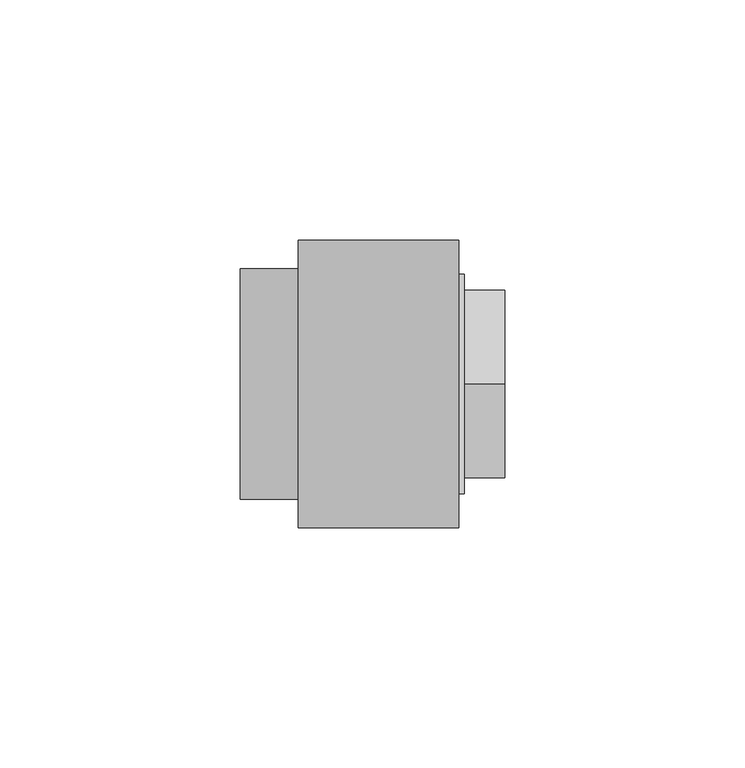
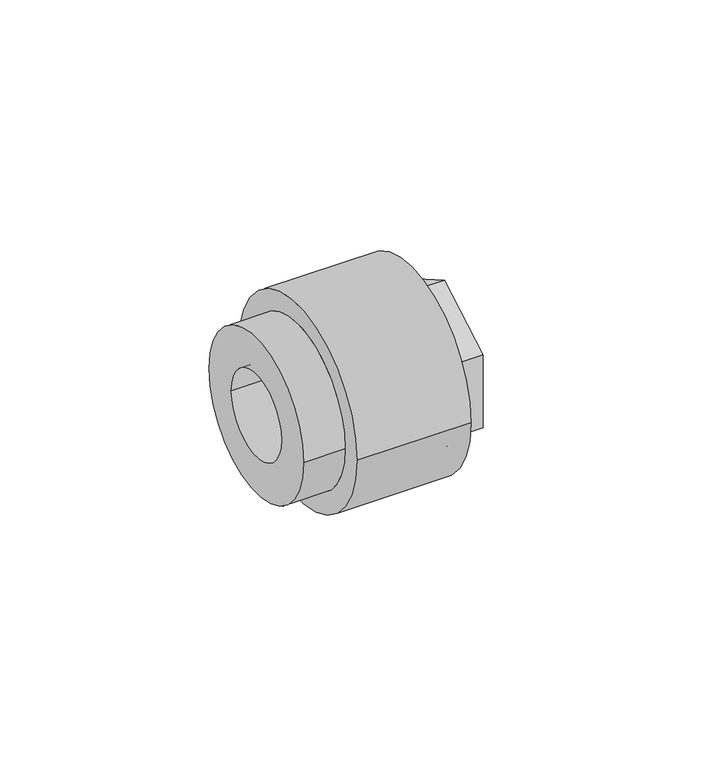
"""IFC4 building model written with IfcOpenShell, lengths in millimetres: pipe fitting geometry, Aquatherm - Fusion Outlet Transition Female : POTABLE BRASS - HEX."""

from ifc_helpers import new_model, si_unit, frame, origin, place, context, project, spatial, polyline, circle_curve, source, transform, mapped, element, save
from ifc_brep_helpers import plane_surface, cylinder_surface, revolved_surface, advanced_brep


def pipe_fitting_4cd8d17a(model_context):
    return source(origin(), model_context, "Body", "AdvancedBrep", [
        advanced_brep(
        [(25.4635, 15.875, 0.0), (25.4635, -15.875, 0.0), (40.3463125, -15.875, 0.0), (40.3463125, 15.875, 0.0), (25.4635, 16.66875, 0.0), (25.4635, -16.66875, 0.0), (22.2885, 16.66875, 0.0), (22.2885, -16.66875, 0.0), (22.2885, 12.7, 0.0), (22.2885, -12.7, 0.0), (19.1135, 12.7, 0.0), (19.1135, -12.7, 0.0), (19.1135, 24.003, 0.0), (19.1135, -24.003, 0.0), (33.401, 24.003, 0.0), (33.401, -24.003, 0.0), (42.926, 16.66875, 0.0), (42.926, -16.66875, 0.0), (42.926, -19.558, 0.0), (42.926, -19.558, -11.2918166), (42.926, 0.0, -22.5836331), (42.926, 19.558, -11.2918166), (42.926, 19.558, 0.0), (42.926, 19.558, 11.2918166), (42.926, 0.0, 22.5836331), (42.926, -19.558, 11.2918166), (33.401, 22.86, 0.0), (33.401, -22.86, 0.0), (34.591625, 22.86, 0.0), (34.591625, -22.86, 0.0), (34.591625, 0.0, -22.5836331), (34.591625, -19.558, -11.2918166), (34.591625, -19.558, 11.2918166), (34.591625, 0.0, 22.5836331), (34.591625, 19.558, 11.2918166), (34.591625, 19.558, -11.2918166)],
        [
            (0, 1, circle_curve(frame((25.4635, 0.0, 0.0), z_axis=(-1.0, 0.0, 0.0), x_axis=(0.0, -1.0, 0.0)), 15.875)),
            (1, 2),
            (2, 3, circle_curve(frame((40.3463125, 0.0, 0.0), z_axis=(1.0, 0.0, 0.0), x_axis=(0.0, -1.0, 0.0)), 15.875)),
            (3, 0),
            (1, 0, circle_curve(frame((25.4635, 0.0, 0.0), z_axis=(-1.0, 0.0, 0.0), x_axis=(0.0, -1.0, 0.0)), 15.875)),
            (3, 2, circle_curve(frame((40.3463125, 0.0, 0.0), z_axis=(1.0, 0.0, 0.0), x_axis=(0.0, -1.0, 0.0)), 15.875)),
            (0, 4),
            (4, 5, circle_curve(frame((25.4635, 0.0, 0.0), z_axis=(-1.0, 0.0, 0.0), x_axis=(0.0, -1.0, 0.0)), 16.66875)),
            (5, 1),
            (5, 4, circle_curve(frame((25.4635, 0.0, 0.0), z_axis=(-1.0, 0.0, 0.0), x_axis=(0.0, -1.0, 0.0)), 16.66875)),
            (4, 6),
            (6, 7, circle_curve(frame((22.2885, 0.0, 0.0), z_axis=(-1.0, 0.0, 0.0), x_axis=(0.0, -1.0, 0.0)), 16.66875)),
            (7, 5),
            (7, 6, circle_curve(frame((22.2885, 0.0, 0.0), z_axis=(-1.0, 0.0, 0.0), x_axis=(0.0, -1.0, 0.0)), 16.66875)),
            (6, 8),
            (8, 9, circle_curve(frame((22.2885, 0.0, 0.0), z_axis=(-1.0, 0.0, 0.0), x_axis=(0.0, -1.0, 0.0)), 12.7)),
            (9, 7),
            (9, 8, circle_curve(frame((22.2885, 0.0, 0.0), z_axis=(-1.0, 0.0, 0.0), x_axis=(0.0, -1.0, 0.0)), 12.7)),
            (8, 10),
            (10, 11, circle_curve(frame((19.1135, 0.0, 0.0), z_axis=(-1.0, 0.0, 0.0), x_axis=(0.0, -1.0, 0.0)), 12.7)),
            (11, 9),
            (11, 10, circle_curve(frame((19.1135, 0.0, 0.0), z_axis=(-1.0, 0.0, 0.0), x_axis=(0.0, -1.0, 0.0)), 12.7)),
            (10, 12),
            (12, 13, circle_curve(frame((19.1135, 0.0, 0.0), z_axis=(-1.0, 0.0, 0.0), x_axis=(0.0, -1.0, 0.0)), 24.003)),
            (13, 11),
            (13, 12, circle_curve(frame((19.1135, 0.0, 0.0), z_axis=(-1.0, 0.0, 0.0), x_axis=(0.0, -1.0, 0.0)), 24.003)),
            (12, 14),
            (14, 15, circle_curve(frame((33.401, 0.0, 0.0), z_axis=(-1.0, 0.0, 0.0), x_axis=(0.0, -1.0, 0.0)), 24.003)),
            (15, 13),
            (15, 14, circle_curve(frame((33.401, 0.0, 0.0), z_axis=(-1.0, 0.0, 0.0), x_axis=(0.0, -1.0, 0.0)), 24.003)),
            (16, 17, circle_curve(frame((42.926, 0.0, 0.0), z_axis=(-1.0, 0.0, 0.0), x_axis=(0.0, -1.0, 0.0)), 16.66875)),
            (17, 18),
            (18, 19),
            (19, 20),
            (20, 21),
            (21, 22),
            (22, 16),
            (17, 16, circle_curve(frame((42.926, 0.0, 0.0), z_axis=(-1.0, 0.0, 0.0), x_axis=(0.0, -1.0, 0.0)), 16.66875)),
            (22, 23),
            (23, 24),
            (24, 25),
            (25, 18),
            (2, 17),
            (16, 3),
            (14, 26),
            (26, 27, circle_curve(frame((33.401, 0.0, 0.0), z_axis=(-1.0, 0.0, 0.0), x_axis=(0.0, -1.0, 0.0)), 22.86)),
            (27, 15),
            (27, 26, circle_curve(frame((33.401, 0.0, 0.0), z_axis=(-1.0, 0.0, 0.0), x_axis=(0.0, -1.0, 0.0)), 22.86)),
            (26, 28),
            (28, 29, circle_curve(frame((34.591625, 0.0, 0.0), z_axis=(-1.0, 0.0, 0.0), x_axis=(0.0, -1.0, 0.0)), 22.86)),
            (29, 27),
            (29, 28, circle_curve(frame((34.591625, 0.0, 0.0), z_axis=(-1.0, 0.0, 0.0), x_axis=(0.0, -1.0, 0.0)), 22.86)),
            (30, 31),
            (31, 32),
            (32, 33),
            (33, 34),
            (34, 35),
            (35, 30),
            (35, 21),
            (20, 30),
            (34, 23),
            (33, 24),
            (32, 25),
            (31, 19),
        ],
        [
            revolved_surface(polyline([(40.3463125, -15.875, 0.0), (25.4635, -15.875, 0.0)]), (44.7592251, 0.0, 0.0), (1.0, 0.0, 0.0)),
            plane_surface(frame((25.4635, 0.0, 0.0), z_axis=(-1.0, 0.0, 0.0), x_axis=(0.0, -1.0, 0.0))),
            revolved_surface(polyline([(25.4635, -16.66875, 0.0), (22.2885, -16.66875, 0.0)]), (44.7592251, 0.0, 0.0), (1.0, 0.0, 0.0)),
            plane_surface(frame((22.2885, 0.0, 0.0), z_axis=(1.0, 0.0, 0.0), x_axis=(0.0, -1.0, 0.0))),
            revolved_surface(polyline([(22.2885, -12.7, 0.0), (19.1135, -12.7, 0.0)]), (44.7592251, 0.0, 0.0), (1.0, 0.0, 0.0)),
            plane_surface(frame((19.1135, 0.0, 0.0), z_axis=(-1.0, 0.0, 0.0), x_axis=(0.0, -1.0, 0.0))),
            cylinder_surface(frame((44.7592251, 0.0, 0.0), z_axis=(1.0, 0.0, 0.0), x_axis=(0.0, -1.0, 0.0)), 24.003),
            plane_surface(frame((42.926, 0.0, 0.0), z_axis=(1.0, 0.0, 0.0), x_axis=(0.0, -1.0, 0.0))),
            revolved_surface(polyline([(42.926, -16.66875, 0.0), (40.3463125, -15.875, 0.0)]), (44.7592251, 0.0, 0.0), (1.0, 0.0, 0.0)),
            plane_surface(frame((33.401, 0.0, 0.0), z_axis=(1.0, 0.0, 0.0), x_axis=(0.0, -1.0, 0.0))),
            cylinder_surface(frame((44.7592251, 0.0, 0.0), z_axis=(1.0, 0.0, 0.0), x_axis=(0.0, -1.0, 0.0)), 22.86),
            plane_surface(frame((34.591625, 19.558, -11.2918166), z_axis=(1.0000000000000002, 0.0, 0.0), x_axis=(0.0, 0.8660254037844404, 0.4999999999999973))),
            plane_surface(frame((34.591625, 0.0, -22.5836331), z_axis=(0.0, 0.4999999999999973, -0.8660254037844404), x_axis=(1.0, 0.0, 0.0))),
            plane_surface(frame((34.591625, 19.558, -11.2918166), z_axis=(0.0, 1.0, 0.0), x_axis=(1.0, 0.0, 0.0))),
            plane_surface(frame((34.591625, 19.558, 11.2918166), z_axis=(0.0, 0.5000000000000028, 0.8660254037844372), x_axis=(1.0, 0.0, 0.0))),
            plane_surface(frame((34.591625, 0.0, 22.5836331), z_axis=(0.0, -0.49999999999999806, 0.8660254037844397), x_axis=(1.0, 0.0, 0.0))),
            plane_surface(frame((34.591625, -19.558, 11.2918166), z_axis=(0.0, -1.0, 0.0), x_axis=(1.0, 0.0, 0.0))),
            plane_surface(frame((34.591625, -19.558, -11.2918166), z_axis=(0.0, -0.5000000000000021, -0.8660254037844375), x_axis=(1.0, 0.0, 0.0))),
        ],
        [
            (0, [[1, 2, 3, 4]]),
            (0, [[-2, 5, -4, 6]]),
            (1, [[-1, 7, 8, 9]]),
            (1, [[-5, -9, 10, -7]]),
            (2, [[-8, 11, 12, 13]]),
            (2, [[-10, -13, 14, -11]]),
            (3, [[-12, 15, 16, 17]]),
            (3, [[-14, -17, 18, -15]]),
            (4, [[-16, 19, 20, 21]]),
            (4, [[-18, -21, 22, -19]]),
            (5, [[-20, 23, 24, 25]]),
            (5, [[-22, -25, 26, -23]]),
            (6, [[-24, 27, 28, 29]]),
            (6, [[-26, -29, 30, -27]]),
            (7, [[31, 32, 33, 34, 35, 36, 37]]),
            (7, [[38, -37, 39, 40, 41, 42, -32]]),
            (8, [[-3, 43, -31, 44]]),
            (8, [[-6, -44, -38, -43]]),
            (9, [[-28, 45, 46, 47]]),
            (9, [[-30, -47, 48, -45]]),
            (10, [[-46, 49, 50, 51]]),
            (10, [[-48, -51, 52, -49]]),
            (11, [[-50, -52], [53, 54, 55, 56, 57, 58]]),
            (12, [[-58, 59, -35, 60]]),
            (13, [[-57, 61, -39, -36, -59]]),
            (14, [[-56, 62, -40, -61]]),
            (15, [[-55, 63, -41, -62]]),
            (16, [[-54, 64, -33, -42, -63]]),
            (17, [[-53, -60, -34, -64]]),
        ],
    ),
        advanced_brep(
        [(-12.1508108, 24.003, 0.0), (-12.1508108, -24.003, 0.0), (-12.1508108, 12.7, 0.0), (-12.1508108, -12.7, 0.0), (19.1135, 24.003, 0.0), (19.1135, -24.003, 0.0), (19.1135, 12.7, 0.0), (19.1135, -12.7, 0.0), (0.0, 24.003, 0.0), (0.0, -24.003, 0.0), (33.401, 29.972, 0.0), (33.401, -29.972, 0.0), (33.401, 24.003, 0.0), (33.401, -24.003, 0.0), (0.0, 29.972, 0.0), (0.0, -29.972, 0.0)],
        [
            (0, 1, circle_curve(frame((-12.1508108, 0.0, 0.0), z_axis=(-1.0, 0.0, 0.0), x_axis=(0.0, -1.0, 0.0)), 24.003)),
            (1, 0, circle_curve(frame((-12.1508108, 0.0, 0.0), z_axis=(-1.0, 0.0, 0.0), x_axis=(0.0, -1.0, 0.0)), 24.003)),
            (2, 3, circle_curve(frame((-12.1508108, 0.0, 0.0), z_axis=(1.0, 0.0, 0.0), x_axis=(0.0, -1.0, 0.0)), 12.7)),
            (3, 2, circle_curve(frame((-12.1508108, 0.0, 0.0), z_axis=(1.0, 0.0, 0.0), x_axis=(0.0, -1.0, 0.0)), 12.7)),
            (4, 5, circle_curve(frame((19.1135, 0.0, 0.0), z_axis=(1.0, 0.0, 0.0), x_axis=(0.0, -1.0, 0.0)), 24.003)),
            (5, 4, circle_curve(frame((19.1135, 0.0, 0.0), z_axis=(1.0, 0.0, 0.0), x_axis=(0.0, -1.0, 0.0)), 24.003)),
            (6, 7, circle_curve(frame((19.1135, 0.0, 0.0), z_axis=(-1.0, 0.0, 0.0), x_axis=(0.0, -1.0, 0.0)), 12.7)),
            (7, 6, circle_curve(frame((19.1135, 0.0, 0.0), z_axis=(-1.0, 0.0, 0.0), x_axis=(0.0, -1.0, 0.0)), 12.7)),
            (2, 6),
            (7, 3),
            (0, 8),
            (8, 9, circle_curve(frame((0.0, 0.0, 0.0), z_axis=(-1.0, 0.0, 0.0), x_axis=(0.0, -1.0, 0.0)), 24.003)),
            (9, 1),
            (9, 8, circle_curve(frame((0.0, 0.0, 0.0), z_axis=(-1.0, 0.0, 0.0), x_axis=(0.0, -1.0, 0.0)), 24.003)),
            (10, 11, circle_curve(frame((33.401, 0.0, 0.0), z_axis=(1.0, 0.0, 0.0), x_axis=(0.0, -1.0, 0.0)), 29.972)),
            (11, 10, circle_curve(frame((33.401, 0.0, 0.0), z_axis=(1.0, 0.0, 0.0), x_axis=(0.0, -1.0, 0.0)), 29.972)),
            (12, 13, circle_curve(frame((33.401, 0.0, 0.0), z_axis=(-1.0, 0.0, 0.0), x_axis=(0.0, -1.0, 0.0)), 24.003)),
            (13, 12, circle_curve(frame((33.401, 0.0, 0.0), z_axis=(-1.0, 0.0, 0.0), x_axis=(0.0, -1.0, 0.0)), 24.003)),
            (14, 15, circle_curve(frame((0.0, 0.0, 0.0), z_axis=(-1.0, 0.0, 0.0), x_axis=(0.0, -1.0, 0.0)), 29.972)),
            (15, 14, circle_curve(frame((0.0, 0.0, 0.0), z_axis=(-1.0, 0.0, 0.0), x_axis=(0.0, -1.0, 0.0)), 29.972)),
            (13, 5),
            (4, 12),
            (11, 15),
            (14, 10),
        ],
        [
            plane_surface(frame((-12.1508108, -12.7, 0.0), z_axis=(-1.0, 0.0, 0.0), x_axis=(0.0, 0.0, -1.0))),
            plane_surface(frame((19.1135, -12.7, 0.0), z_axis=(1.0, 0.0, 0.0), x_axis=(0.0, 0.0, 1.0))),
            revolved_surface(polyline([(19.1135, -12.7, 0.0), (-12.150810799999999, -12.7, 0.0)]), (19.1135, 0.0, 0.0), (1.0, 0.0, 0.0)),
            cylinder_surface(frame((0.0, 0.0, 0.0), z_axis=(-1.0, 0.0, 0.0), x_axis=(0.0, -1.0, 0.0)), 24.003),
            plane_surface(frame((33.401, -24.003, 0.0), z_axis=(1.0, 0.0, 0.0), x_axis=(0.0, 0.0, 1.0))),
            plane_surface(frame((0.0, -24.003, 0.0), z_axis=(-1.0, 0.0, 0.0), x_axis=(0.0, 0.0, -1.0))),
            revolved_surface(polyline([(33.401, -24.003, 0.0), (19.1135, -24.003, 0.0)]), (33.401, 0.0, 0.0), (1.0, 0.0, 0.0)),
            cylinder_surface(frame((0.0, 0.0, 0.0), z_axis=(-1.0, 0.0, 0.0), x_axis=(0.0, -1.0, 0.0)), 29.972),
        ],
        [
            (0, [[1, 2], [3, 4]]),
            (1, [[5, 6], [7, 8]]),
            (2, [[-3, 9, -8, 10]]),
            (2, [[-4, -10, -7, -9]]),
            (3, [[-1, 11, 12, 13]]),
            (3, [[-2, -13, 14, -11]]),
            (4, [[15, 16], [17, 18]]),
            (5, [[19, 20], [-12, -14]]),
            (6, [[-18, 21, -5, 22]]),
            (6, [[-17, -22, -6, -21]]),
            (7, [[-16, 23, -19, 24]]),
            (7, [[-15, -24, -20, -23]]),
        ],
    ),
    ])


if __name__ == "__main__":
    model = new_model("IFC4")
    model_context = context("Model", 3, world=origin())
    ifc_project = project(units=[si_unit("LENGTHUNIT", "METRE", prefix="MILLI")], contexts=[model_context])
    site = spatial("IfcSite", under=ifc_project)
    building = spatial("IfcBuilding", under=site)
    placement = place(None, origin())
    pipe_fitting_shape = pipe_fitting_4cd8d17a(model_context)
    element("IfcPipeFitting", 1, ObjectType="Aquatherm - Fusion Outlet Transition Female : POTABLE BRASS - HEX", at=placement, inside=building, context=model_context, shape_type="MappedRepresentation", body=[
        mapped(pipe_fitting_shape, transform((0.0, 0.0, 0.0), x_axis=(1.0, 0.0, 0.0), y_axis=(0.0, 1.0, 0.0), z_axis=(0.0, 0.0, 1.0))),
    ])
    save(model, "model.ifc")
